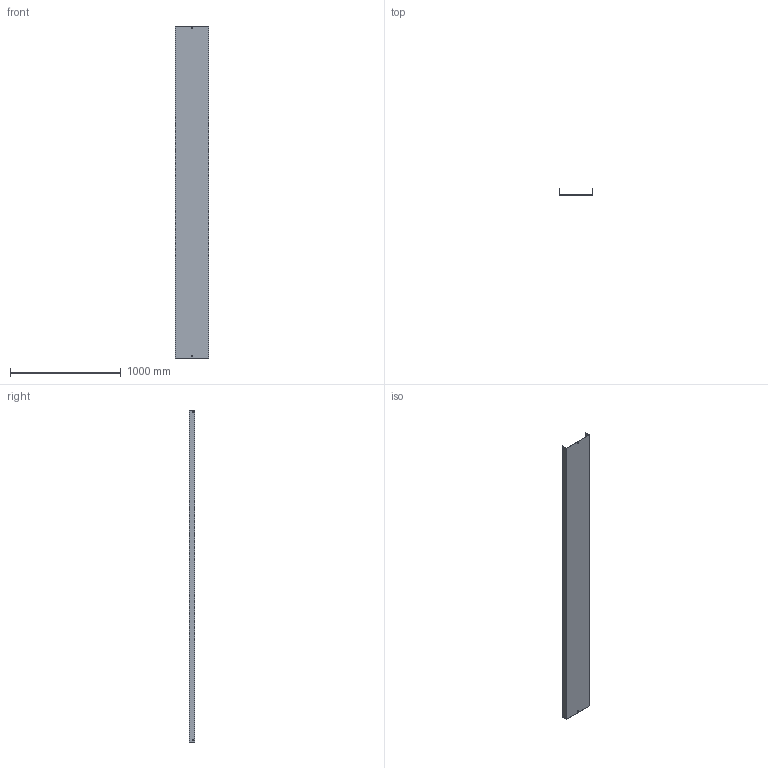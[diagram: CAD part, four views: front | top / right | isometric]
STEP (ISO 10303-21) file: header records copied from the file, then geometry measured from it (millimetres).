
FILE_DESCRIPTION (( 'STEP AP214' ), '1' );
FILE_NAME ('03B3B300.step', '2025-02-21T10:13:37', ( '' ), ( '' ), 'SwSTEP 2.0', 'SolidWorks 2023', '' );
FILE_SCHEMA (( 'AUTOMOTIVE_DESIGN' ));
Length unit declared in the file: millimetre
Products named in the file (1): 03B3B300
Bounding box: 304 x 52 x 3000 mm (x, y, z)
Volume: 4209110.5 mm3; surface area: 2429706 mm2
Topology: 1 solids, 1 shells, 34 faces, 96 edges, 64 vertices
Faces by surface type: plane 34
Entity records: 1127 total; most frequent: CARTESIAN_POINT 195, ORIENTED_EDGE 192, DIRECTION 166, EDGE_CURVE 96, LINE 96, VECTOR 96, VERTEX_POINT 64, EDGE_LOOP 46
